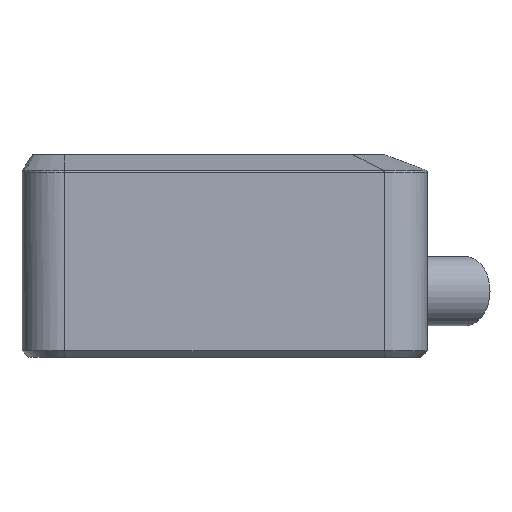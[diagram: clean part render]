
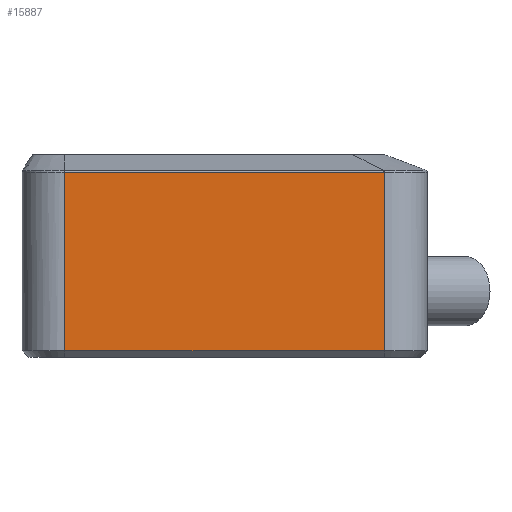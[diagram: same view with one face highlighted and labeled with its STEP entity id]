
A CAD part, front view. The second image highlights one B-rep face of the part: STEP entity #15887.
In plain terms, the highlighted planar face has unit normal (0, -1, 0).
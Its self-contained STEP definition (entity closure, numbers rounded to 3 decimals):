
#2314=DIRECTION('',(1.,0.,0.));
#2315=VECTOR('',#2314,29.92);
#2316=CARTESIAN_POINT('',(-15.,-19.,17.347));
#2317=LINE('',#2316,#2315);
#2332=CARTESIAN_POINT('',(15.,-19.,17.347));
#2577=CARTESIAN_POINT('',(-15.,-19.,17.347));
#3745=DIRECTION('',(0.,0.,1.));
#3746=VECTOR('',#3745,16.747);
#3747=CARTESIAN_POINT('',(-15.,-19.,0.6));
#3748=LINE('',#3747,#3746);
#3749=CARTESIAN_POINT('',(14.919,-19.,2.809));
#3750=DIRECTION('',(0.,-1.,0.));
#3751=DIRECTION('',(0.006,0.,1.));
#3752=AXIS2_PLACEMENT_3D('',#3749,#3750,#3751);
#3754=DIRECTION('',(0.,0.,-1.));
#3755=VECTOR('',#3754,16.747);
#3756=CARTESIAN_POINT('',(15.,-19.,17.347));
#3757=LINE('',#3756,#3755);
#3758=DIRECTION('',(1.,0.,0.));
#3759=VECTOR('',#3758,30.);
#3760=CARTESIAN_POINT('',(-15.,-19.,0.6));
#3761=LINE('',#3760,#3759);
#8071=CARTESIAN_POINT('',(15.,-19.,0.6));
#8072=VERTEX_POINT('',#8071);
#8073=CARTESIAN_POINT('',(-15.,-19.,0.6));
#8074=VERTEX_POINT('',#8073);
#8674=VERTEX_POINT('',#2577);
#8708=VERTEX_POINT('',#2332);
#8712=CARTESIAN_POINT('',(14.92,-19.,17.347));
#8713=VERTEX_POINT('',#8712);
#15874=CARTESIAN_POINT('',(-19.,-19.,0.));
#15875=DIRECTION('',(0.,-1.,0.));
#15876=DIRECTION('',(1.,0.,0.));
#15877=AXIS2_PLACEMENT_3D('',#15874,#15875,#15876);
#15878=PLANE('',#15877);
#15879=ORIENTED_EDGE('',*,*,#14263,.T.);
#15880=ORIENTED_EDGE('',*,*,#13636,.T.);
#15881=ORIENTED_EDGE('',*,*,#13651,.F.);
#15882=ORIENTED_EDGE('',*,*,#15865,.T.);
#15884=ORIENTED_EDGE('',*,*,#15883,.F.);
#15885=EDGE_LOOP('',(#15879,#15880,#15881,#15882,#15884));
#15886=FACE_OUTER_BOUND('',#15885,.F.);
#15887=ADVANCED_FACE('',(#15886),#15878,.T.);
#3753=CIRCLE('',#3752,14.538);
#13636=EDGE_CURVE('',#8674,#8713,#2317,.T.);
#13651=EDGE_CURVE('',#8708,#8713,#3753,.T.);
#14263=EDGE_CURVE('',#8074,#8674,#3748,.T.);
#15865=EDGE_CURVE('',#8708,#8072,#3757,.T.);
#15883=EDGE_CURVE('',#8074,#8072,#3761,.T.);
